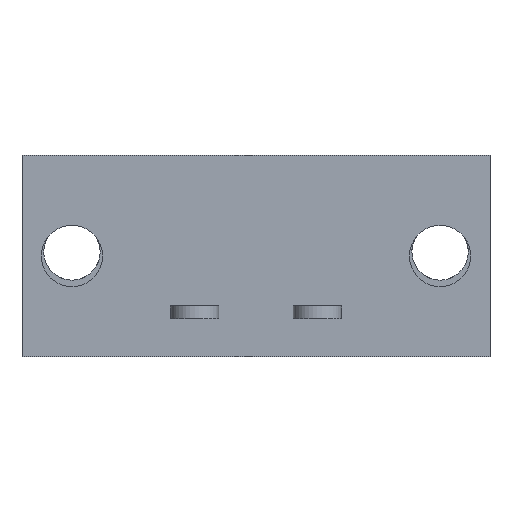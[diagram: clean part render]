
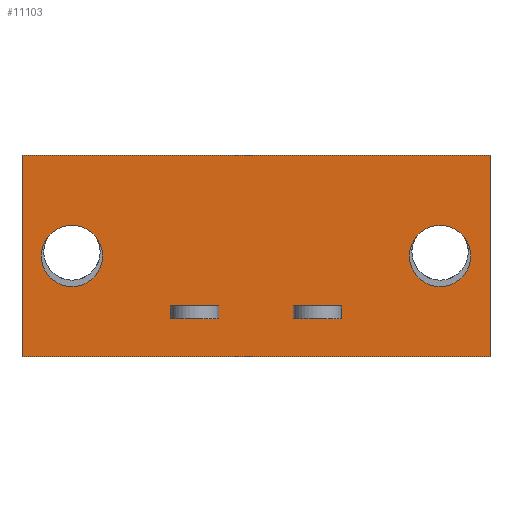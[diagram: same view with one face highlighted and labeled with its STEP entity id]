
A CAD part, front view. The second image highlights one B-rep face of the part: STEP entity #11103.
In plain terms, the highlighted planar face has unit normal (0, -1, 0).
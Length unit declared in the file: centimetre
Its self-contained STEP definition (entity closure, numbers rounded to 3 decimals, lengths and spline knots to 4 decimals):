
#586=CIRCLE('',#18623,0.19);
#654=CIRCLE('',#18812,0.19);
#775=VERTEX_POINT('',#14297);
#776=VERTEX_POINT('',#14298);
#781=VERTEX_POINT('',#14310);
#787=VERTEX_POINT('',#14324);
#1194=VERTEX_POINT('',#16028);
#1195=VERTEX_POINT('',#16030);
#1198=VERTEX_POINT('',#16038);
#1403=VERTEX_POINT('',#16739);
#1404=VERTEX_POINT('',#16740);
#1407=VERTEX_POINT('',#16748);
#1414=VERTEX_POINT('',#16769);
#1427=VERTEX_POINT('',#16803);
#1430=VERTEX_POINT('',#16812);
#1431=VERTEX_POINT('',#16814);
#1872=VECTOR('',#12041,1.);
#1876=VECTOR('',#12050,1.);
#1882=VECTOR('',#12059,1.);
#1897=VECTOR('',#12090,1.);
#2369=VECTOR('',#12759,1.);
#2588=VECTOR('',#13237,1.);
#2592=VECTOR('',#13242,1.);
#2595=VECTOR('',#13265,1.);
#2598=VECTOR('',#13269,1.);
#2609=VECTOR('',#13290,1.);
#2614=VECTOR('',#13298,1.);
#2615=VECTOR('',#13299,1.);
#3128=LINE('',#14296,#1872);
#3132=LINE('',#14309,#1876);
#3138=LINE('',#14323,#1882);
#3153=LINE('',#14363,#1897);
#3625=LINE('',#16029,#2369);
#3844=LINE('',#16738,#2588);
#3848=LINE('',#16747,#2592);
#3851=LINE('',#16768,#2595);
#3854=LINE('',#16773,#2598);
#3865=LINE('',#16802,#2609);
#3870=LINE('',#16813,#2614);
#3871=LINE('',#16815,#2615);
#4459=EDGE_CURVE('',#775,#776,#3128,.T.);
#4465=EDGE_CURVE('',#781,#775,#3132,.T.);
#4472=EDGE_CURVE('',#776,#787,#3138,.T.);
#4490=EDGE_CURVE('',#787,#781,#3153,.T.);
#5080=EDGE_CURVE('',#1195,#1194,#3625,.T.);
#5084=EDGE_CURVE('',#1198,#1198,#586,.T.);
#5394=EDGE_CURVE('',#1403,#1404,#3844,.T.);
#5398=EDGE_CURVE('',#1407,#1403,#3848,.T.);
#5407=EDGE_CURVE('',#1414,#1407,#3851,.T.);
#5410=EDGE_CURVE('',#1404,#1414,#3854,.T.);
#5424=EDGE_CURVE('',#1427,#1194,#3865,.T.);
#5429=EDGE_CURVE('',#1430,#1430,#654,.T.);
#5430=EDGE_CURVE('',#1431,#1195,#3870,.T.);
#5431=EDGE_CURVE('',#1427,#1431,#3871,.T.);
#8187=ORIENTED_EDGE('',*,*,#4465,.T.);
#8188=ORIENTED_EDGE('',*,*,#4459,.T.);
#8189=ORIENTED_EDGE('',*,*,#4472,.T.);
#8190=ORIENTED_EDGE('',*,*,#4490,.T.);
#8191=ORIENTED_EDGE('',*,*,#5084,.T.);
#8192=ORIENTED_EDGE('',*,*,#5429,.T.);
#8193=ORIENTED_EDGE('',*,*,#5398,.F.);
#8194=ORIENTED_EDGE('',*,*,#5407,.F.);
#8195=ORIENTED_EDGE('',*,*,#5410,.F.);
#8196=ORIENTED_EDGE('',*,*,#5394,.F.);
#8197=ORIENTED_EDGE('',*,*,#5430,.T.);
#8198=ORIENTED_EDGE('',*,*,#5080,.T.);
#8199=ORIENTED_EDGE('',*,*,#5424,.F.);
#8200=ORIENTED_EDGE('',*,*,#5431,.T.);
#9751=EDGE_LOOP('',(#8187,#8188,#8189,#8190));
#9752=EDGE_LOOP('',(#8191));
#9753=EDGE_LOOP('',(#8192));
#9754=EDGE_LOOP('',(#8193,#8194,#8195,#8196));
#9755=EDGE_LOOP('',(#8197,#8198,#8199,#8200));
#10453=FACE_BOUND('',#9751,.T.);
#10454=FACE_BOUND('',#9752,.T.);
#10455=FACE_BOUND('',#9753,.T.);
#10456=FACE_BOUND('',#9754,.T.);
#10457=FACE_BOUND('',#9755,.T.);
#11103=ADVANCED_FACE('',(#10453,#10454,#10455,#10456,#10457),#11609,.T.);
#11609=PLANE('',#18811);
#12041=DIRECTION('',(0.,0.,-1.));
#12050=DIRECTION('',(1.,0.,0.));
#12059=DIRECTION('',(-1.,0.,0.));
#12090=DIRECTION('',(0.,0.,1.));
#12759=DIRECTION('',(0.,0.,1.));
#12765=DIRECTION('',(0.,1.,0.));
#12766=DIRECTION('',(0.19,0.,0.));
#13237=DIRECTION('',(0.,0.,-1.));
#13242=DIRECTION('',(-1.,0.,0.));
#13265=DIRECTION('',(0.,0.,1.));
#13269=DIRECTION('',(1.,0.,0.));
#13290=DIRECTION('',(1.,0.,0.));
#13295=DIRECTION('',(0.,-1.,0.));
#13296=DIRECTION('',(0.,1.,0.));
#13297=DIRECTION('',(0.19,0.,0.));
#13298=DIRECTION('',(1.,0.,0.));
#13299=DIRECTION('',(0.,0.,-1.));
#14296=CARTESIAN_POINT('',(0.912,-0.53,-0.2));
#14297=CARTESIAN_POINT('',(0.912,-0.53,-0.335));
#14298=CARTESIAN_POINT('',(0.912,-0.53,-0.415));
#14309=CARTESIAN_POINT('',(0.155,-0.53,-0.335));
#14310=CARTESIAN_POINT('',(0.612,-0.53,-0.335));
#14323=CARTESIAN_POINT('',(0.155,-0.53,-0.415));
#14324=CARTESIAN_POINT('',(0.612,-0.53,-0.415));
#14363=CARTESIAN_POINT('',(0.612,-0.53,-0.2));
#16028=CARTESIAN_POINT('',(1.834,-0.53,0.6));
#16029=CARTESIAN_POINT('',(1.834,-0.53,0.6));
#16030=CARTESIAN_POINT('',(1.834,-0.53,-0.65));
#16037=CARTESIAN_POINT('',(1.524,-0.53,-0.025));
#16038=CARTESIAN_POINT('',(1.334,-0.53,-0.025));
#16738=CARTESIAN_POINT('',(-0.15,-0.53,-0.2));
#16739=CARTESIAN_POINT('',(-0.15,-0.53,-0.335));
#16740=CARTESIAN_POINT('',(-0.15,-0.53,-0.415));
#16747=CARTESIAN_POINT('',(-0.155,-0.53,-0.335));
#16748=CARTESIAN_POINT('',(0.15,-0.53,-0.335));
#16768=CARTESIAN_POINT('',(0.15,-0.53,-0.2));
#16769=CARTESIAN_POINT('',(0.15,-0.53,-0.415));
#16773=CARTESIAN_POINT('',(-0.155,-0.53,-0.415));
#16802=CARTESIAN_POINT('',(-1.072,-0.53,0.6));
#16803=CARTESIAN_POINT('',(-1.072,-0.53,0.6));
#16810=CARTESIAN_POINT('',(-0.452,-0.53,-0.025));
#16811=CARTESIAN_POINT('',(-0.762,-0.53,-0.025));
#16812=CARTESIAN_POINT('',(-0.952,-0.53,-0.025));
#16813=CARTESIAN_POINT('',(-1.072,-0.53,-0.65));
#16814=CARTESIAN_POINT('',(-1.072,-0.53,-0.65));
#16815=CARTESIAN_POINT('',(-1.072,-0.53,0.6));
#18623=AXIS2_PLACEMENT_3D('',#16037,#12765,#12766);
#18811=AXIS2_PLACEMENT_3D('',#16810,#13295,$);
#18812=AXIS2_PLACEMENT_3D('',#16811,#13296,#13297);
